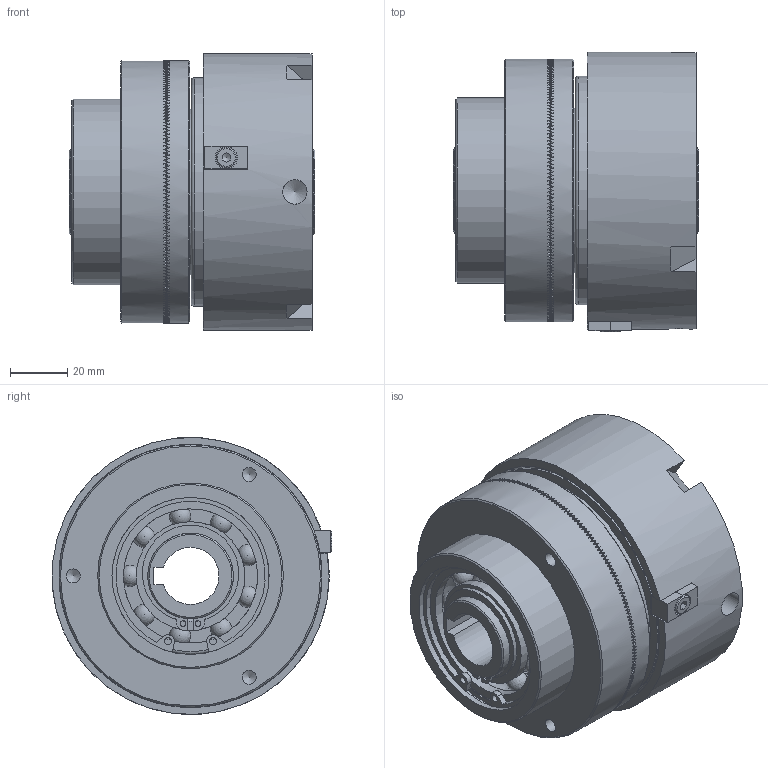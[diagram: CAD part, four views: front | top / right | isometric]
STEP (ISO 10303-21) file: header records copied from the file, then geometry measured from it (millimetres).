
FILE_DESCRIPTION(/* description */ (''),/* implementation_level */ '2;1');
FILE_NAME(/* name */ 'X:\INVENTOR\DISEGNI\03_Friz_Oleod_Pneum_Cil_Stat\03_20 DPR\03_20_00_01 DPR00\03_20_00_01 DPR00-2017@STEP.stp',/* time_stamp */ '2017-09-11T11:34:34+02:00',/* author */ ('stefano'),/* organization */ (''),/* preprocessor_version */ 'ST-DEVELOPER v16.1',/* originating_system */ 'Autodesk Inventor 2016',/* authorisation */ '');
FILE_SCHEMA (('CONFIG_CONTROL_DESIGN'));
Products named in the file (1): 03_20_00_01 DPR00_Substitute_1
Bounding box: 86 x 97.97 x 96.91 mm (x, y, z)
Volume: 374359.9 mm3; surface area: 125608.4 mm2
Topology: 1 solids, 1 shells, 2370 faces, 7305 edges, 4830 vertices
Faces by surface type: plane 1884, cylinder 256, torus 174, sphere 38, cone 15, bspline 3
Full cylindrical faces by diameter (mm): 2 x4, 2.5 x2, 4.917 x3, 5 x1, 5.25 x3, 7 x1, 8.566 x1, 28.6 x2, 29.5 x1, 30 x5, 38 x7, 47 x7, 47.5 x1, 48 x1, 50 x1, 55 x5, 58 x2, 59.6 x2, 60 x1, 65 x2, 70 x1, 70.4 x2, 80 x1, 84 x2, 85 x1, 92 x2, 97 x1
Entity records: 92918 total; most frequent: CARTESIAN_POINT 23044, DIRECTION 15731, ORIENTED_EDGE 14138, EDGE_CURVE 7067, AXIS2_PLACEMENT_3D 6805, VERTEX_POINT 4716, ELLIPSE 2643, EDGE_LOOP 2541
